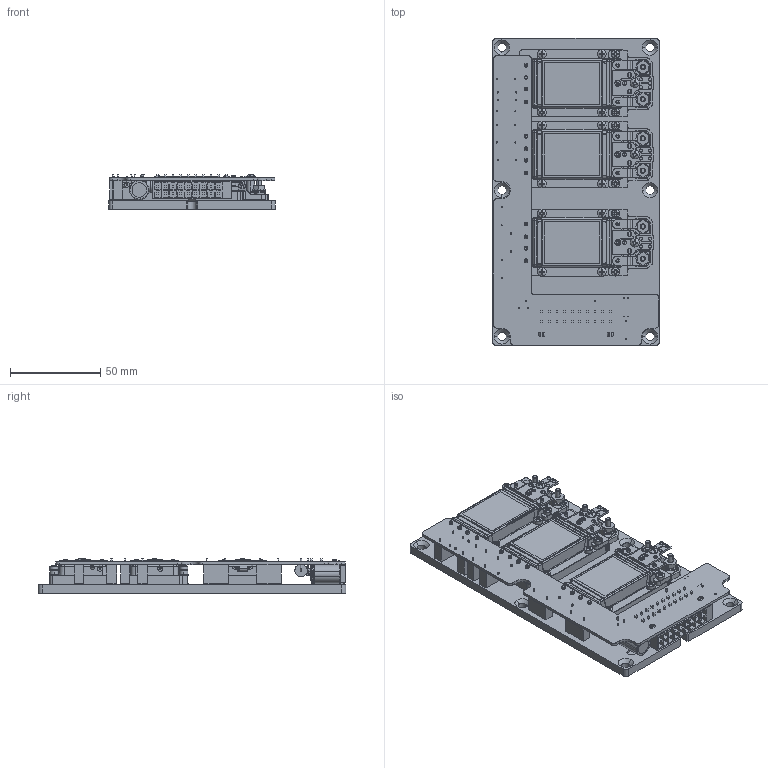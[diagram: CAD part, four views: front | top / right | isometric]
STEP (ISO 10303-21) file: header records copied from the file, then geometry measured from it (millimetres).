
FILE_DESCRIPTION (( 'STEP AP214' ), '1' );
FILE_NAME ('VA-C-LUG-3OUT.STEP', '2011-02-16T13:59:09', ( 'Vicor Employee' ), ( 'Vicor Corporation' ), 'SwSTEP 2.0', 'SolidWorks 2011', '' );
FILE_SCHEMA (( 'AUTOMOTIVE_DESIGN' ));
Length unit declared in the file: inch
Products named in the file (1): VA-C-LUG-3OUT
Bounding box: 92.28 x 170.51 x 19.28 mm (x, y, z)
Volume: 125667.2 mm3; surface area: 114601.9 mm2
Topology: 1 solids, 1 shells, 7020 faces, 19213 edges, 12321 vertices
Faces by surface type: plane 3925, cylinder 1970, bspline 525, cone 378, torus 132, sphere 90
Entity records: 343252 total; most frequent: CARTESIAN_POINT 77352, ORIENTED_EDGE 38330, DIRECTION 34237, EDGE_CURVE 19165, VERTEX_POINT 12321, VECTOR 11741, LINE 11741, AXIS2_PLACEMENT_3D 11248
